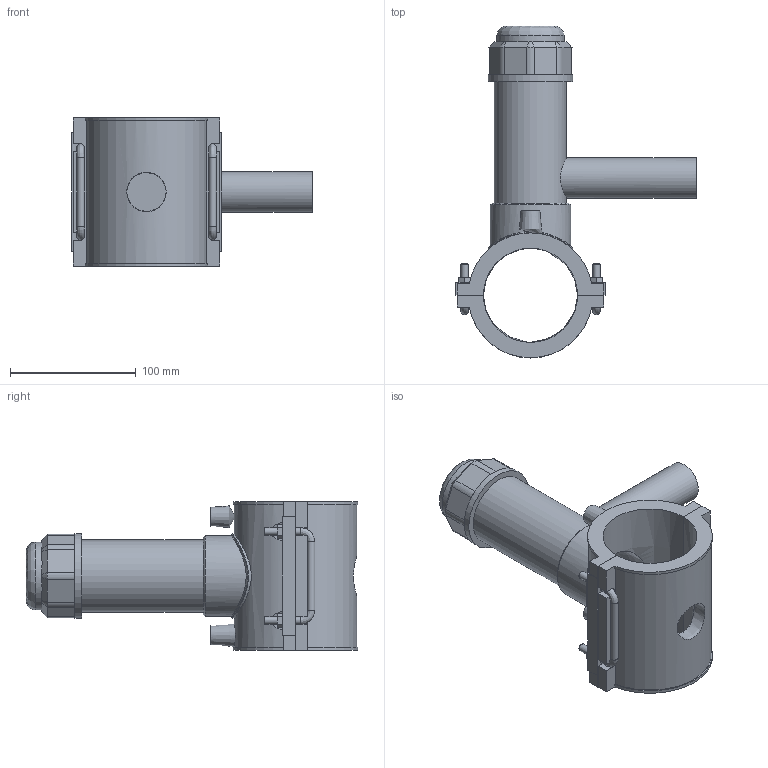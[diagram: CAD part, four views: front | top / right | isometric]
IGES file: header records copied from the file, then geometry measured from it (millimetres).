
Global section: file name: 496304075032.ipt; native system: Autodesk Inventor 2015; preprocessor: unknown; author: KIM; date: 20190124.130707; units: millimetre
Bounding box: 191.5 x 264.23 x 118 mm (x, y, z)
Volume: 670802.8 mm3; surface area: 165861.4 mm2
Topology: 2 solids, 2 shells, 192 faces, 495 edges, 323 vertices
Faces by surface type: plane 118, cylinder 34, revolution 20, cone 15, bspline 5
Full cylindrical faces by diameter (mm): 4 x2, 6 x10, 32 x1, 54 x1, 57.375 x1, 64.125 x1, 67.5 x2
